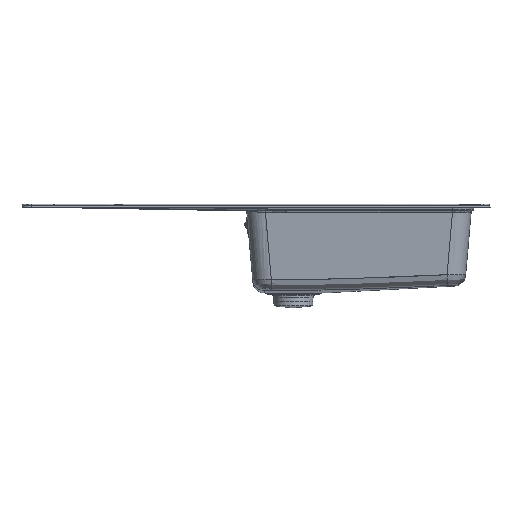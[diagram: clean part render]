
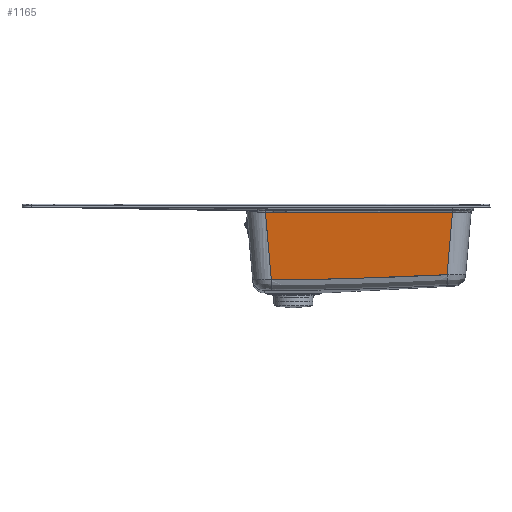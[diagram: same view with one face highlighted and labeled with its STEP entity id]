
A CAD part, front view. The second image highlights one B-rep face of the part: STEP entity #1165.
In plain terms, the highlighted planar face has unit normal (0, -0.996, -0.087).
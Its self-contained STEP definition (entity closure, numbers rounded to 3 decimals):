
#463=PLANE('',#8277);
#1165=ADVANCED_FACE('',(#1554),#463,.T.);
#1554=FACE_OUTER_BOUND('',#1944,.T.);
#1944=EDGE_LOOP('',(#2505));
#2505=ORIENTED_EDGE('',*,*,#4474,.T.);
#4474=EDGE_CURVE('',#6867,#6867,#5847,.T.);
#5847=B_SPLINE_CURVE_WITH_KNOTS('',3,(#12307,#12308,#12309,#12310,#12311,
#12312,#12313,#12314,#12315,#12316,#12317,#12318,#12319,#12320,#12321,#12322,
#12323,#12324,#12325,#12326,#12327,#12328,#12329,#12330,#12331,#12332,#12333,
#12334,#12335,#12336,#12337,#12338,#12339,#12340,#12341,#12342,#12343,#12344,
#12345,#12346,#12347,#12348,#12349,#12350,#12351,#12352,#12353,#12354,#12355,
#12356,#12357,#12358,#12359,#12360,#12361,#12362,#12363,#12364),
 .UNSPECIFIED.,.T.,.F.,(4,3,1,1,3,3,3,1,1,1,1,1,1,1,1,1,1,1,1,1,1,1,1,1,
1,1,1,1,1,1,1,1,1,1,1,1,1,1,1,1,1,1,1,1,3,4),(0.,1.,1.333,1.667,
2.,3.,4.,4.026,4.053,4.079,4.105,
4.132,4.158,4.184,4.211,4.237,
4.263,4.289,4.316,4.342,4.368,
4.395,4.421,4.447,4.474,4.5,4.526,
4.553,4.579,4.605,4.632,4.658,
4.684,4.711,4.737,4.763,4.789,
4.816,4.842,4.868,4.895,4.921,
4.947,4.974,5.,6.),.UNSPECIFIED.);
#6867=VERTEX_POINT('',#12306);
#8277=AXIS2_PLACEMENT_3D('',#12305,#8324,$);
#8324=DIRECTION('',(0.,-0.996,-0.087));
#12305=CARTESIAN_POINT('',(-39.711,-274.207,-14.251));
#12306=CARTESIAN_POINT('',(367.994,-273.91,-17.651));
#12307=CARTESIAN_POINT('',(367.994,-273.91,-17.651));
#12308=CARTESIAN_POINT('',(249.08,-273.91,-17.651));
#12309=CARTESIAN_POINT('',(130.166,-273.91,-17.651));
#12310=CARTESIAN_POINT('',(11.252,-273.91,-17.651));
#12311=CARTESIAN_POINT('',(8.335,-273.91,-17.651));
#12312=CARTESIAN_POINT('',(2.502,-273.911,-17.634));
#12313=CARTESIAN_POINT('',(-6.248,-273.918,-17.558));
#12314=CARTESIAN_POINT('',(-12.081,-273.925,-17.473));
#12315=CARTESIAN_POINT('',(-14.997,-273.93,-17.422));
#12316=CARTESIAN_POINT('',(-20.57,-273.938,-17.325));
#12317=CARTESIAN_POINT('',(-26.144,-273.947,-17.228));
#12318=CARTESIAN_POINT('',(-31.717,-273.955,-17.13));
#12319=CARTESIAN_POINT('',(-27.528,-269.766,-65.017));
#12320=CARTESIAN_POINT('',(-23.338,-265.576,-112.904));
#12321=CARTESIAN_POINT('',(-19.148,-261.387,-160.791));
#12322=CARTESIAN_POINT('',(-16.306,-261.383,-160.831));
#12323=CARTESIAN_POINT('',(-10.624,-261.377,-160.903));
#12324=CARTESIAN_POINT('',(-2.106,-261.369,-160.992));
#12325=CARTESIAN_POINT('',(6.391,-261.363,-161.058));
#12326=CARTESIAN_POINT('',(14.882,-261.359,-161.104));
#12327=CARTESIAN_POINT('',(23.38,-261.357,-161.127));
#12328=CARTESIAN_POINT('',(31.878,-261.357,-161.129));
#12329=CARTESIAN_POINT('',(40.373,-261.359,-161.108));
#12330=CARTESIAN_POINT('',(48.869,-261.363,-161.065));
#12331=CARTESIAN_POINT('',(57.368,-261.368,-161.001));
#12332=CARTESIAN_POINT('',(65.871,-261.376,-160.916));
#12333=CARTESIAN_POINT('',(74.385,-261.385,-160.809));
#12334=CARTESIAN_POINT('',(82.919,-261.396,-160.683));
#12335=CARTESIAN_POINT('',(91.484,-261.409,-160.537));
#12336=CARTESIAN_POINT('',(100.093,-261.423,-160.371));
#12337=CARTESIAN_POINT('',(108.762,-261.44,-160.186));
#12338=CARTESIAN_POINT('',(117.505,-261.457,-159.983));
#12339=CARTESIAN_POINT('',(126.35,-261.477,-159.76));
#12340=CARTESIAN_POINT('',(135.323,-261.498,-159.519));
#12341=CARTESIAN_POINT('',(144.43,-261.521,-159.258));
#12342=CARTESIAN_POINT('',(153.669,-261.545,-158.979));
#12343=CARTESIAN_POINT('',(163.083,-261.571,-158.68));
#12344=CARTESIAN_POINT('',(172.799,-261.6,-158.359));
#12345=CARTESIAN_POINT('',(182.882,-261.63,-158.011));
#12346=CARTESIAN_POINT('',(193.162,-261.662,-157.644));
#12347=CARTESIAN_POINT('',(203.38,-261.695,-157.266));
#12348=CARTESIAN_POINT('',(213.434,-261.729,-156.884));
#12349=CARTESIAN_POINT('',(223.576,-261.763,-156.489));
#12350=CARTESIAN_POINT('',(234.076,-261.8,-156.071));
#12351=CARTESIAN_POINT('',(245.111,-261.839,-155.622));
#12352=CARTESIAN_POINT('',(256.362,-261.88,-155.154));
#12353=CARTESIAN_POINT('',(267.472,-261.921,-154.685));
#12354=CARTESIAN_POINT('',(278.478,-261.962,-154.212));
#12355=CARTESIAN_POINT('',(289.529,-262.004,-153.731));
#12356=CARTESIAN_POINT('',(301.101,-262.049,-153.221));
#12357=CARTESIAN_POINT('',(313.603,-262.098,-152.663));
#12358=CARTESIAN_POINT('',(327.026,-262.151,-152.056));
#12359=CARTESIAN_POINT('',(341.267,-262.208,-151.405));
#12360=CARTESIAN_POINT('',(351.241,-262.248,-150.944));
#12361=CARTESIAN_POINT('',(356.353,-262.269,-150.706));
#12362=CARTESIAN_POINT('',(360.233,-266.149,-106.355));
#12363=CARTESIAN_POINT('',(364.114,-270.03,-62.003));
#12364=CARTESIAN_POINT('',(367.994,-273.91,-17.651));
